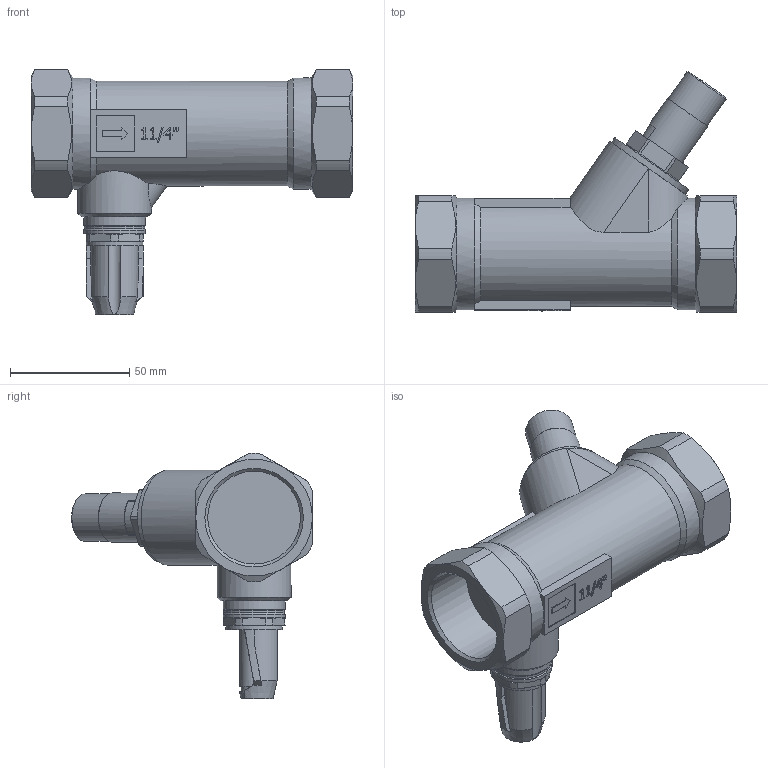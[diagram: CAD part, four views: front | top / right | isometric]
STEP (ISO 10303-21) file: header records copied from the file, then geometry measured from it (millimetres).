
FILE_DESCRIPTION((''),'2;1');
FILE_NAME('C:\Users\duckj\Desktop\10010159.stp','2018-05-30T07:24:04',('duckj'),(''),'Autodesk Inventor 2013','Autodesk Inventor 2013','');
FILE_SCHEMA(('CONFIG_CONTROL_DESIGN'));
Length unit declared in the file: millimetre
Products named in the file (1): 30052018_001
Bounding box: 135 x 101.14 x 102.99 mm (x, y, z)
Volume: 245153.9 mm3; surface area: 41137.8 mm2
Topology: 1 solids, 1 shells, 1045 faces, 2761 edges, 1814 vertices
Faces by surface type: plane 597, bspline 359, cylinder 50, cone 37, torus 2
Full cylindrical faces by diameter (mm): 11 x1, 12 x1, 20 x1, 20.7 x1, 23.8 x1, 25.4 x1, 26 x2, 27 x1, 31 x1, 38 x1, 38.952 x2, 46.8 x2
Entity records: 34854 total; most frequent: CARTESIAN_POINT 10616, ORIENTED_EDGE 5444, DIRECTION 3478, EDGE_CURVE 2722, VERTEX_POINT 1802, VECTOR 1722, LINE 1722, EDGE_LOOP 1170
